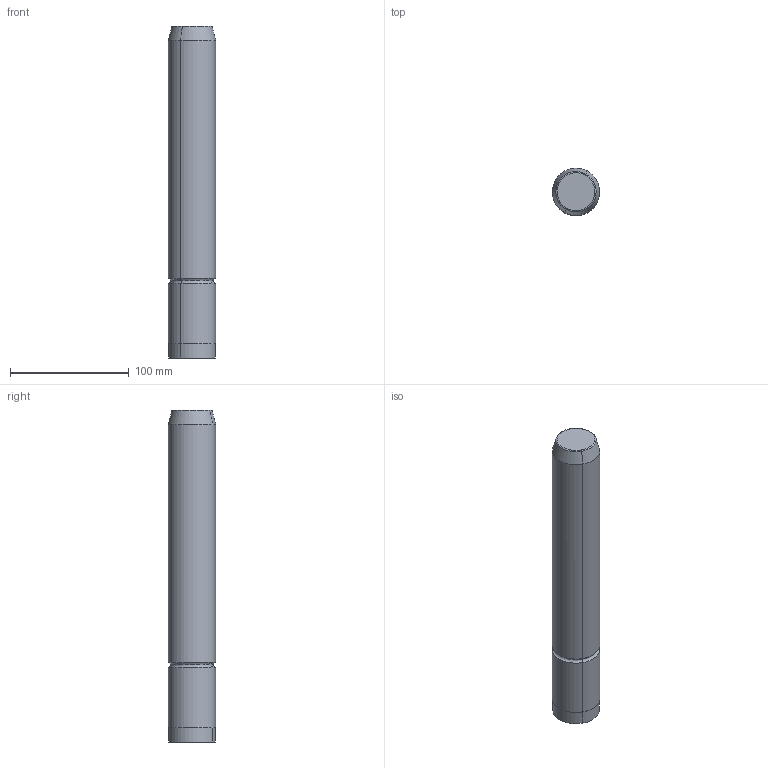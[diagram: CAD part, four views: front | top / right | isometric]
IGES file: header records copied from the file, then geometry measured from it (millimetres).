
Start section: START RECORD GO HERE.
Global section: file name: M104-40x280.igs; native system: DASSAULT SYSTEMES CATIA V5 R20 - www.3ds.com; preprocessor: CATIA Version 5 Release 20 ; author: Utente; organization: NB04-ASUS; date: 20201226.222654; units: millimetre
Bounding box: 39.99 x 39.99 x 280 mm (x, y, z)
Surface area: 37439.3 mm2 (no closed solid volume)
Topology: 0 solids, 0 shells, 17 faces, 64 edges, 64 vertices
Faces by surface type: revolution 14, plane 3
